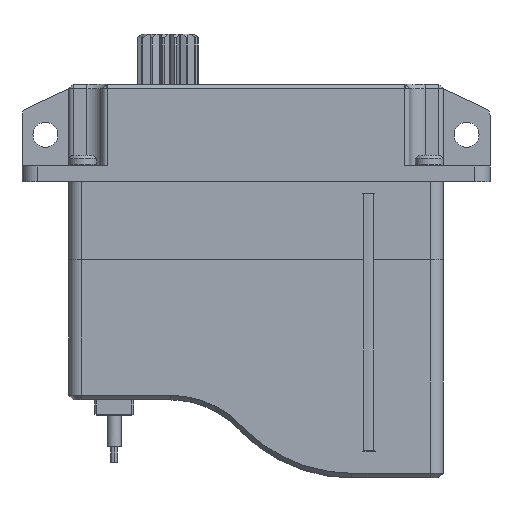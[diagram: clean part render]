
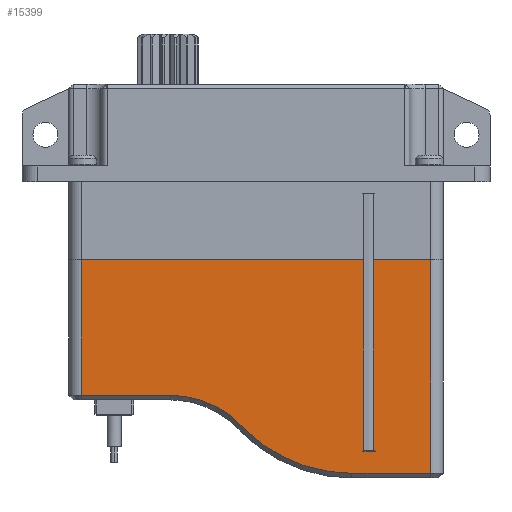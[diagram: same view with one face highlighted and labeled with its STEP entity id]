
A CAD part, front view. The second image highlights one B-rep face of the part: STEP entity #15399.
In plain terms, the highlighted planar face has unit normal (0, -1, 0).
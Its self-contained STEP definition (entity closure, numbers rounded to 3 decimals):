
#217 = CARTESIAN_POINT ( 'NONE',  ( -42.51, -9.153, -14.32 ) ) ;
#232 = CARTESIAN_POINT ( 'NONE',  ( -34.56, -9.153, -3.775 ) ) ;
#402 = ORIENTED_EDGE ( 'NONE', *, *, #10159, .T. ) ;
#483 = VECTOR ( 'NONE', #16925, 1000. ) ;
#538 = CARTESIAN_POINT ( 'NONE',  ( -30.28, -9.153, -17.475 ) ) ;
#606 = CARTESIAN_POINT ( 'NONE',  ( -35.337, -9.153, -17.475 ) ) ;
#652 = CARTESIAN_POINT ( 'NONE',  ( -52.868, -9.153, -12.475 ) ) ;
#700 = VECTOR ( 'NONE', #10669, 1000. ) ;
#766 = CARTESIAN_POINT ( 'NONE',  ( -35.337, -9.153, -7.775 ) ) ;
#1058 = ORIENTED_EDGE ( 'NONE', *, *, #8629, .T. ) ;
#1059 = CARTESIAN_POINT ( 'NONE',  ( -30.28, -9.153, -17.475 ) ) ;
#1205 = EDGE_CURVE ( 'NONE', #7261, #16184, #4826, .T. ) ;
#1294 = AXIS2_PLACEMENT_3D ( 'NONE', #10645, #14503, #4065 ) ;
#1351 = VECTOR ( 'NONE', #9839, 1000. ) ;
#1497 = LINE ( 'NONE', #14402, #483 ) ;
#1590 = EDGE_CURVE ( 'NONE', #8869, #1713, #4388, .T. ) ;
#1713 = VERTEX_POINT ( 'NONE', #232 ) ;
#1764 = CIRCLE ( 'NONE', #9773, 9.7 ) ;
#2010 = VECTOR ( 'NONE', #10666, 1000. ) ;
#2094 = EDGE_CURVE ( 'NONE', #10448, #6435, #13661, .T. ) ;
#2152 = CARTESIAN_POINT ( 'NONE',  ( -52.68, -9.153, -12.475 ) ) ;
#2325 = CARTESIAN_POINT ( 'NONE',  ( -52.68, -9.153, -8.775 ) ) ;
#2740 = VERTEX_POINT ( 'NONE', #10214 ) ;
#3168 = DIRECTION ( 'NONE',  ( 0., 0., -1. ) ) ;
#3221 = CIRCLE ( 'NONE', #1294, 6.3 ) ;
#3355 = DIRECTION ( 'NONE',  ( 0., 0., -1. ) ) ;
#3499 = EDGE_LOOP ( 'NONE', ( #5178, #402, #4518, #13374, #6376, #1058, #9009, #7084, #13080, #5609, #6971, #10611 ) ) ;
#3530 = FACE_OUTER_BOUND ( 'NONE', #3499, .T. ) ;
#3779 = VECTOR ( 'NONE', #6607, 1000. ) ;
#3948 = VERTEX_POINT ( 'NONE', #11310 ) ;
#4051 = CARTESIAN_POINT ( 'NONE',  ( -46.965, -9.153, -12.475 ) ) ;
#4065 = DIRECTION ( 'NONE',  ( 0., 0., -1. ) ) ;
#4388 = LINE ( 'NONE', #5125, #3779 ) ;
#4518 = ORIENTED_EDGE ( 'NONE', *, *, #1205, .T. ) ;
#4826 = LINE ( 'NONE', #652, #1351 ) ;
#5125 = CARTESIAN_POINT ( 'NONE',  ( -34.56, -9.153, -16.075 ) ) ;
#5178 = ORIENTED_EDGE ( 'NONE', *, *, #14154, .T. ) ;
#5608 = LINE ( 'NONE', #16204, #10359 ) ;
#5609 = ORIENTED_EDGE ( 'NONE', *, *, #9125, .F. ) ;
#5948 = AXIS2_PLACEMENT_3D ( 'NONE', #11360, #13899, #6084 ) ;
#6084 = DIRECTION ( 'NONE',  ( 0., 0., -1. ) ) ;
#6111 = VECTOR ( 'NONE', #9026, 1000. ) ;
#6156 = VERTEX_POINT ( 'NONE', #606 ) ;
#6352 = EDGE_CURVE ( 'NONE', #9462, #16885, #1497, .T. ) ;
#6376 = ORIENTED_EDGE ( 'NONE', *, *, #2094, .T. ) ;
#6435 = VERTEX_POINT ( 'NONE', #15667 ) ;
#6607 = DIRECTION ( 'NONE',  ( 0., 0., 1. ) ) ;
#6955 = CARTESIAN_POINT ( 'NONE',  ( -52.868, -9.153, -3.775 ) ) ;
#6971 = ORIENTED_EDGE ( 'NONE', *, *, #11159, .F. ) ;
#7051 = CARTESIAN_POINT ( 'NONE',  ( -33.96, -9.153, -3.775 ) ) ;
#7074 = DIRECTION ( 'NONE',  ( -1., 0., 0. ) ) ;
#7084 = ORIENTED_EDGE ( 'NONE', *, *, #16393, .F. ) ;
#7261 = VERTEX_POINT ( 'NONE', #2152 ) ;
#7414 = EDGE_CURVE ( 'NONE', #6156, #11262, #8999, .T. ) ;
#8080 = CARTESIAN_POINT ( 'NONE',  ( -33.96, -9.153, -16.075 ) ) ;
#8100 = EDGE_CURVE ( 'NONE', #16184, #10448, #3221, .T. ) ;
#8413 = CARTESIAN_POINT ( 'NONE',  ( -30.28, -9.153, -14.775 ) ) ;
#8440 = DIRECTION ( 'NONE',  ( 0., 0., 1. ) ) ;
#8493 = PLANE ( 'NONE',  #5948 ) ;
#8567 = DIRECTION ( 'NONE',  ( 0., -1., 0. ) ) ;
#8629 = EDGE_CURVE ( 'NONE', #6435, #6156, #1764, .T. ) ;
#8869 = VERTEX_POINT ( 'NONE', #12985 ) ;
#8999 = LINE ( 'NONE', #1059, #2010 ) ;
#9009 = ORIENTED_EDGE ( 'NONE', *, *, #7414, .T. ) ;
#9026 = DIRECTION ( 'NONE',  ( 0.707, 0., -0.707 ) ) ;
#9125 = EDGE_CURVE ( 'NONE', #2740, #16885, #5608, .T. ) ;
#9462 = VERTEX_POINT ( 'NONE', #16143 ) ;
#9773 = AXIS2_PLACEMENT_3D ( 'NONE', #766, #8567, #3168 ) ;
#9839 = DIRECTION ( 'NONE',  ( 1., 0., 0. ) ) ;
#10159 = EDGE_CURVE ( 'NONE', #3948, #7261, #10221, .T. ) ;
#10214 = CARTESIAN_POINT ( 'NONE',  ( -33.96, -9.153, -16.075 ) ) ;
#10221 = LINE ( 'NONE', #2325, #10844 ) ;
#10359 = VECTOR ( 'NONE', #8440, 1000. ) ;
#10448 = VERTEX_POINT ( 'NONE', #217 ) ;
#10611 = ORIENTED_EDGE ( 'NONE', *, *, #1590, .T. ) ;
#10645 = CARTESIAN_POINT ( 'NONE',  ( -46.965, -9.153, -18.775 ) ) ;
#10666 = DIRECTION ( 'NONE',  ( 1., 0., 0. ) ) ;
#10669 = DIRECTION ( 'NONE',  ( 1., 0., 0. ) ) ;
#10844 = VECTOR ( 'NONE', #14233, 1000. ) ;
#11159 = EDGE_CURVE ( 'NONE', #8869, #2740, #14438, .T. ) ;
#11262 = VERTEX_POINT ( 'NONE', #538 ) ;
#11310 = CARTESIAN_POINT ( 'NONE',  ( -52.68, -9.153, -3.775 ) ) ;
#11360 = CARTESIAN_POINT ( 'NONE',  ( -52.868, -9.153, -7.501 ) ) ;
#11735 = CARTESIAN_POINT ( 'NONE',  ( -51.098, -9.153, -5.732 ) ) ;
#12300 = VECTOR ( 'NONE', #3355, 1000. ) ;
#12985 = CARTESIAN_POINT ( 'NONE',  ( -34.56, -9.153, -16.075 ) ) ;
#13080 = ORIENTED_EDGE ( 'NONE', *, *, #6352, .T. ) ;
#13374 = ORIENTED_EDGE ( 'NONE', *, *, #8100, .T. ) ;
#13661 = LINE ( 'NONE', #11735, #6111 ) ;
#13899 = DIRECTION ( 'NONE',  ( 0., -1., 0. ) ) ;
#14154 = EDGE_CURVE ( 'NONE', #1713, #3948, #16377, .T. ) ;
#14233 = DIRECTION ( 'NONE',  ( 0., 0., -1. ) ) ;
#14402 = CARTESIAN_POINT ( 'NONE',  ( -52.868, -9.153, -3.775 ) ) ;
#14438 = LINE ( 'NONE', #8080, #700 ) ;
#14503 = DIRECTION ( 'NONE',  ( 0., 1., 0. ) ) ;
#14933 = LINE ( 'NONE', #8413, #12300 ) ;
#15348 = VECTOR ( 'NONE', #7074, 1000. ) ;
#15399 = ADVANCED_FACE ( 'NONE', ( #3530 ), #8493, .T. ) ;
#15667 = CARTESIAN_POINT ( 'NONE',  ( -42.196, -9.153, -14.634 ) ) ;
#16143 = CARTESIAN_POINT ( 'NONE',  ( -30.28, -9.153, -3.775 ) ) ;
#16184 = VERTEX_POINT ( 'NONE', #4051 ) ;
#16204 = CARTESIAN_POINT ( 'NONE',  ( -33.96, -9.153, -16.075 ) ) ;
#16377 = LINE ( 'NONE', #6955, #15348 ) ;
#16393 = EDGE_CURVE ( 'NONE', #9462, #11262, #14933, .T. ) ;
#16885 = VERTEX_POINT ( 'NONE', #7051 ) ;
#16925 = DIRECTION ( 'NONE',  ( -1., 0., 0. ) ) ;
